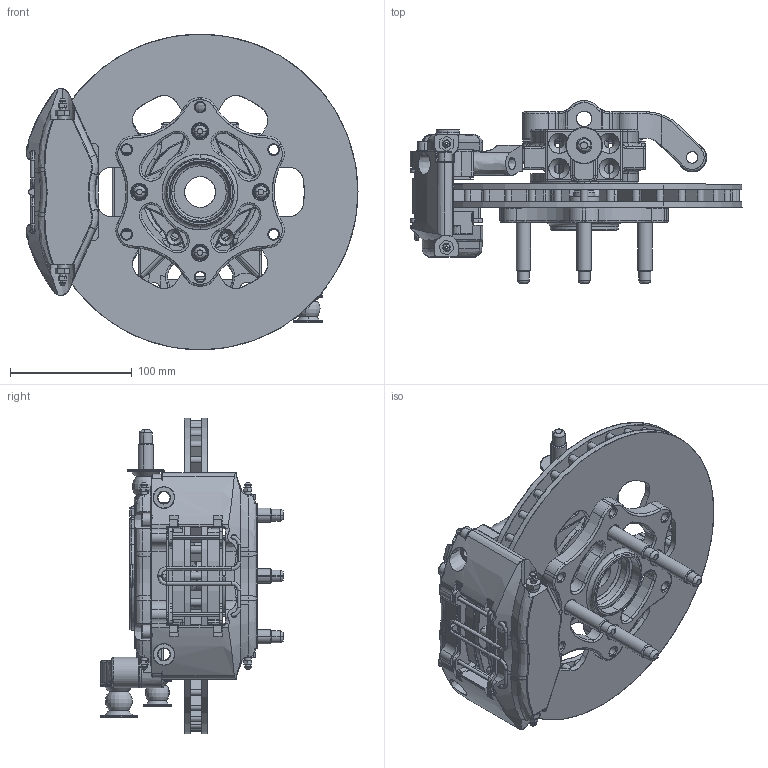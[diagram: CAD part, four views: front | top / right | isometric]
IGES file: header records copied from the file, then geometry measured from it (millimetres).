
Start section: SolidWorks IGES file using analytic representation for surfaces
Global section: file name: C:\projects\PM Parts\LT Upright Assembly.IGS; native system: SolidWorks 2010; preprocessor: SolidWorks 2010; author: dp; date: 100428.144027; units: inch
Bounding box: 273.18 x 150.44 x 259.85 mm (x, y, z)
Surface area: 388766.3 mm2 (no closed solid volume)
Topology: 0 solids, 0 shells, 1586 faces, 22910 edges, 22840 vertices
Faces by surface type: revolution 865, bspline 721
